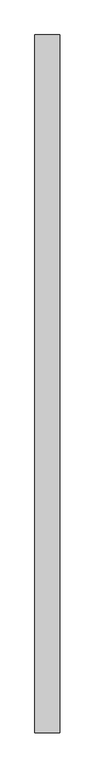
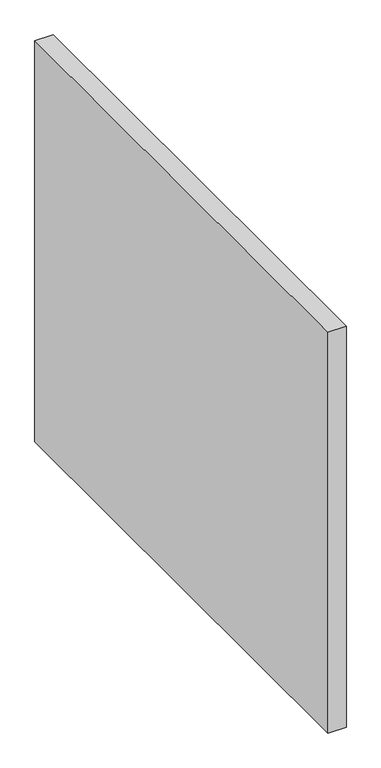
"""IFC4 building model written with IfcOpenShell, lengths in millimetres: proxy geometry, FOUNDATION^OPEN OFFICE 2_42x32 GALLERY WALL-PARTS SOLID."""

from ifc_helpers import new_model, si_unit, frame, origin, place, context, project, spatial, polyline, outline, extrude, source, transform, mapped, element, save


def generic_models_8d57c307(model_context):
    return source(origin(), model_context, "Body", "SweptSolid", [
        extrude(outline(polyline([(0.0, 0.0), (0.0, 1066.8), (38.1, 1066.8), (38.1, 0.0), (0.0, 0.0)])), frame((0.0, 0.0, -889.0), z_axis=(0.0, 0.0, 1.0), x_axis=(1.0, 0.0, 0.0)), (0.0, 0.0, 1.0), 889.0),
    ])


if __name__ == "__main__":
    model = new_model("IFC4")
    model_context = context("Model", 3, world=origin())
    ifc_project = project(units=[si_unit("LENGTHUNIT", "METRE", prefix="MILLI")], contexts=[model_context])
    site = spatial("IfcSite", under=ifc_project)
    building = spatial("IfcBuilding", under=site)
    placement = place(None, origin())
    generic_models_shape = generic_models_8d57c307(model_context)
    element("IfcBuildingElementProxy", 1, Name="FOUNDATION^OPEN OFFICE 2_42x32 GALLERY WALL-PARTS SOLID", ObjectType="FOUNDATION^OPEN OFFICE 2_42x32 GALLERY WALL-PARTS SOLID", at=placement, inside=building, context=model_context, shape_type="MappedRepresentation", body=[
        mapped(generic_models_shape, transform((0.0, 0.0, 0.0), x_axis=(1.0, 0.0, 0.0), y_axis=(0.0, 1.0, 0.0), z_axis=(0.0, 0.0, 1.0))),
    ])
    save(model, "model.ifc")
